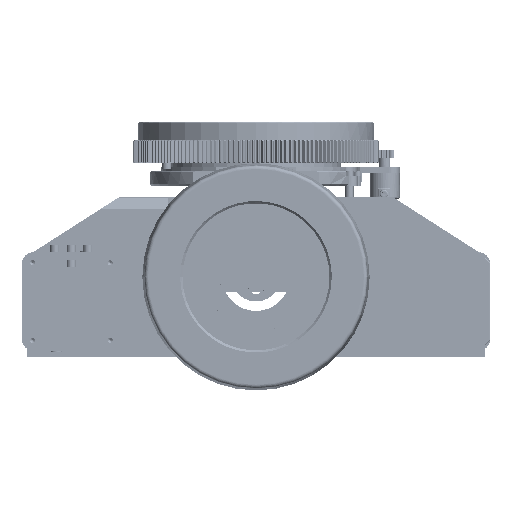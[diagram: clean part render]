
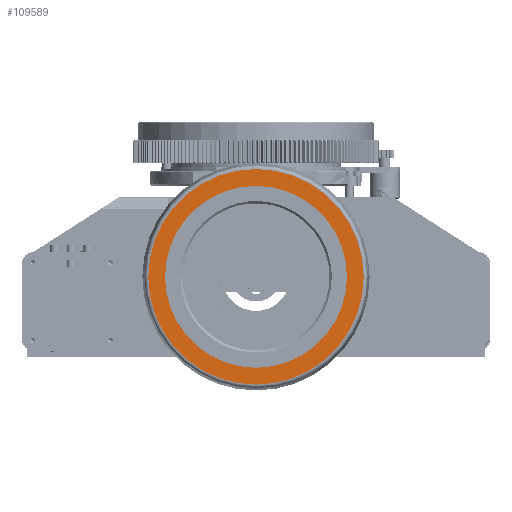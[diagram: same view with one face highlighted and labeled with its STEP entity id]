
A CAD part, front view. The second image highlights one B-rep face of the part: STEP entity #109589.
In plain terms, the highlighted planar face has unit normal (0, -1, 0).
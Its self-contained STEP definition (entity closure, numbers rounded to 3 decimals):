
#16110 = EDGE_LOOP ( 'NONE', ( #152437 ) ) ;
#20877 = DIRECTION ( 'NONE',  ( 1., 0., 0. ) ) ;
#25890 = VERTEX_POINT ( 'NONE', #74063 ) ;
#28513 = ORIENTED_EDGE ( 'NONE', *, *, #42068, .T. ) ;
#31220 = CARTESIAN_POINT ( 'NONE',  ( -175.933, -337.955, 982.352 ) ) ;
#34038 = EDGE_CURVE ( 'NONE', #96915, #96915, #48316, .T. ) ;
#34052 = FACE_OUTER_BOUND ( 'NONE', #16110, .T. ) ;
#37194 = DIRECTION ( 'NONE',  ( -1., 0., 0. ) ) ;
#42068 = EDGE_CURVE ( 'NONE', #25890, #82124, #106383, .T. ) ;
#47072 = AXIS2_PLACEMENT_3D ( 'NONE', #157324, #63567, #88108 ) ;
#48316 = CIRCLE ( 'NONE', #90332, 142.213 ) ;
#51849 = CARTESIAN_POINT ( 'NONE',  ( -153.721, -337.955, 982.352 ) ) ;
#63567 = DIRECTION ( 'NONE',  ( 0., 1., 0. ) ) ;
#64298 = DIRECTION ( 'NONE',  ( 0., -1., 0. ) ) ;
#73472 = CARTESIAN_POINT ( 'NONE',  ( -33.721, -337.955, 982.352 ) ) ;
#74063 = CARTESIAN_POINT ( 'NONE',  ( 86.279, -337.955, 982.352 ) ) ;
#82124 = VERTEX_POINT ( 'NONE', #51849 ) ;
#87432 = PLANE ( 'NONE',  #107379 ) ;
#88108 = DIRECTION ( 'NONE',  ( -1., 0., 0. ) ) ;
#90332 = AXIS2_PLACEMENT_3D ( 'NONE', #90583, #64298, #37194 ) ;
#90583 = CARTESIAN_POINT ( 'NONE',  ( -33.721, -337.955, 982.352 ) ) ;
#96915 = VERTEX_POINT ( 'NONE', #31220 ) ;
#106383 = CIRCLE ( 'NONE', #114877, 120. ) ;
#107379 = AXIS2_PLACEMENT_3D ( 'NONE', #73472, #140891, #20877 ) ;
#107538 = ORIENTED_EDGE ( 'NONE', *, *, #120996, .T. ) ;
#109589 = ADVANCED_FACE ( 'NONE', ( #34052, #154912 ), #87432, .F. ) ;
#114877 = AXIS2_PLACEMENT_3D ( 'NONE', #126386, #114959, #168392 ) ;
#114959 = DIRECTION ( 'NONE',  ( 0., 1., 0. ) ) ;
#120996 = EDGE_CURVE ( 'NONE', #82124, #25890, #136616, .T. ) ;
#126386 = CARTESIAN_POINT ( 'NONE',  ( -33.721, -337.955, 982.352 ) ) ;
#136616 = CIRCLE ( 'NONE', #47072, 120. ) ;
#140891 = DIRECTION ( 'NONE',  ( 0., 1., 0. ) ) ;
#147297 = EDGE_LOOP ( 'NONE', ( #107538, #28513 ) ) ;
#152437 = ORIENTED_EDGE ( 'NONE', *, *, #34038, .T. ) ;
#154912 = FACE_BOUND ( 'NONE', #147297, .T. ) ;
#157324 = CARTESIAN_POINT ( 'NONE',  ( -33.721, -337.955, 982.352 ) ) ;
#168392 = DIRECTION ( 'NONE',  ( -1., 0., 0. ) ) ;
